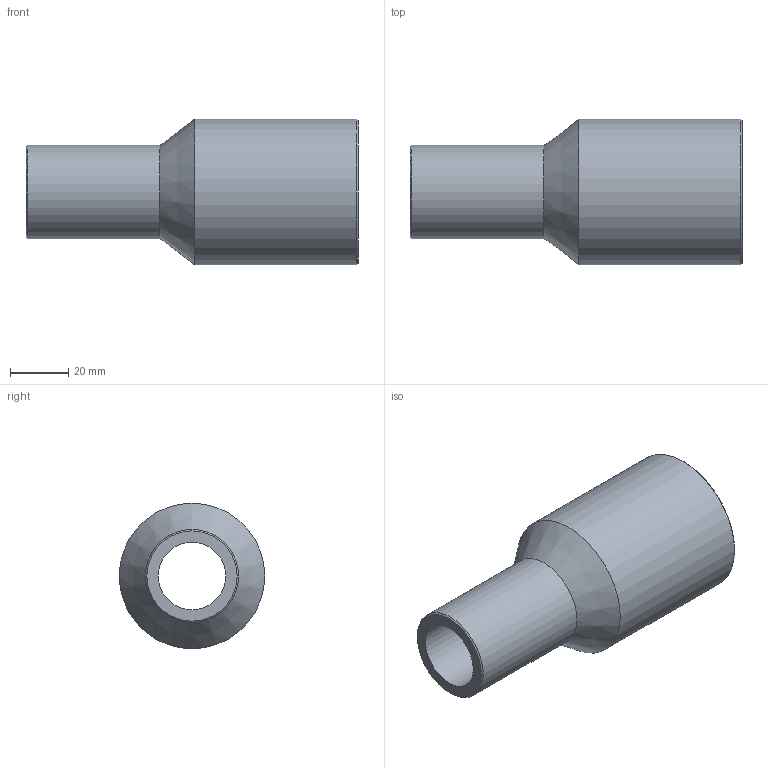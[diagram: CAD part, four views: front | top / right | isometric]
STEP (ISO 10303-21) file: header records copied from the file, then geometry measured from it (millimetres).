
FILE_DESCRIPTION(/* description */ ('Unknown'),/* implementation_level */ '2;1');
FILE_NAME(/* name */ 'RP050032H',/* time_stamp */ '2021-09-16T11:17:13+02:00',/* author */ ('Unknown'),/* organization */ ('Unknown'),/* preprocessor_version */ 'ST-DEVELOPER v16.7',/* originating_system */ 'Solid Edge',/* authorisation */ 'Unknown');
FILE_SCHEMA (('AUTOMOTIVE_DESIGN {1 0 10303 214 3 1 1}'));
Length unit declared in the file: millimetre
Products named in the file (1): RP050032H
Bounding box: 114 x 50 x 50 mm (x, y, z)
Volume: 79071.2 mm3; surface area: 27457.3 mm2
Topology: 1 solids, 1 shells, 10 faces, 19 edges, 11 vertices
Faces by surface type: cylinder 4, cone 4, plane 2
Full cylindrical faces by diameter (mm): 23.2 x1, 32 x1, 36.2 x1, 50 x1
Entity records: 238 total; most frequent: DIRECTION 42, CARTESIAN_POINT 31, AXIS2_PLACEMENT_3D 21, ORIENTED_EDGE 20, EDGE_LOOP 20, FACE_BOUND 20, EDGE_CURVE 10, VERTEX_POINT 10
